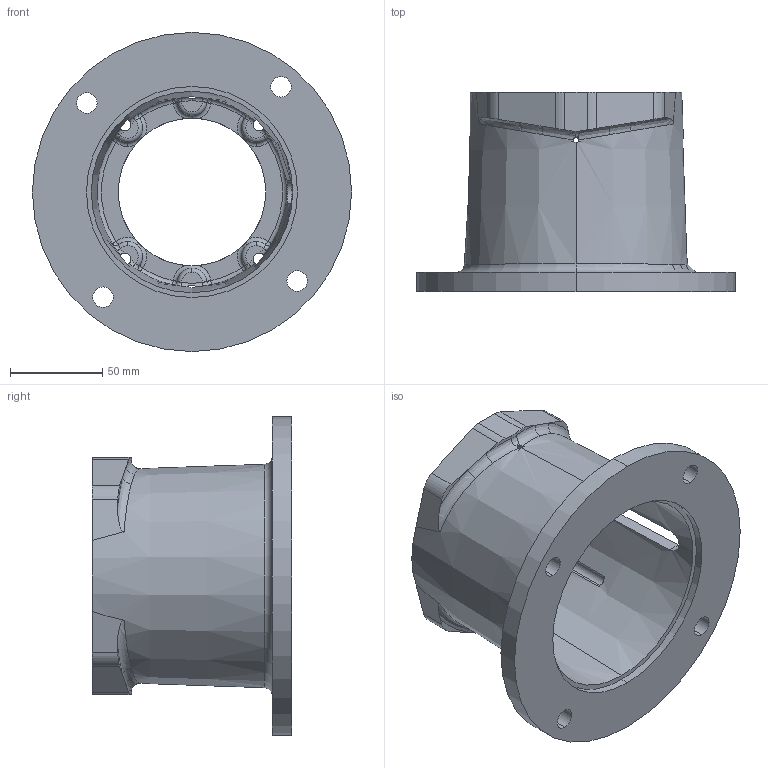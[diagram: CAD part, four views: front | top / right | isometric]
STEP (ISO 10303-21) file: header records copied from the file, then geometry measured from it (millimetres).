
FILE_DESCRIPTION (( 'STEP AP203' ), '1' );
FILE_NAME ('M0564280M.STEP', '2015-01-19T15:32:14', ( '' ), ( '' ), 'SwSTEP 2.0', 'SolidWorks 2014', '' );
FILE_SCHEMA (( 'CONFIG_CONTROL_DESIGN' ));
Length unit declared in the file: inch
Products named in the file (1): M0564280M
Bounding box: 172.97 x 107.95 x 172.97 mm (x, y, z)
Volume: 413462.9 mm3; surface area: 116161.8 mm2
Topology: 1 solids, 1 shells, 202 faces, 552 edges, 327 vertices
Faces by surface type: torus 46, cylinder 38, bspline 38, plane 36, sphere 24, cone 20
Entity records: 8642 total; most frequent: CARTESIAN_POINT 3751, ORIENTED_EDGE 1072, DIRECTION 1000, EDGE_CURVE 536, AXIS2_PLACEMENT_3D 455, VERTEX_POINT 327, CIRCLE 290, EDGE_LOOP 221
